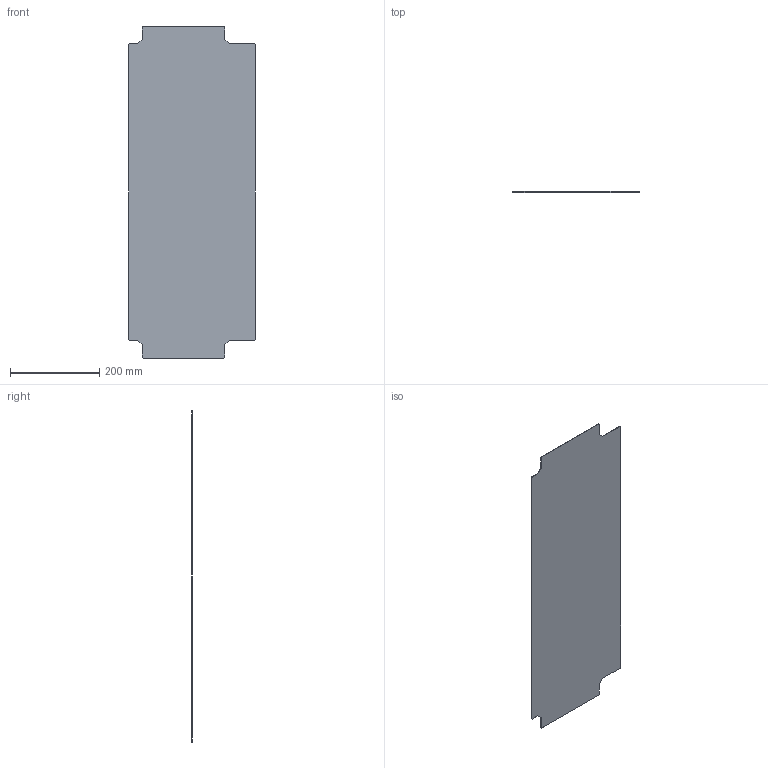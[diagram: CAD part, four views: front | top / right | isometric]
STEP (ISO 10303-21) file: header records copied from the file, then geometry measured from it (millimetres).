
FILE_DESCRIPTION(('CAx-IF Rec.Pracs.---Model Styling and Organization---1.2---2011-12-15','CAx-IF Rec.Pracs.---Geometric and Assembly Validation Properties---4.1---2014-06-16','CAx-IF Rec.Pracs.---PMI Polyline Presentation---2.0---2013-05-24'),'2;1');
FILE_NAME('R5SBC38.stp','2021-05-06T02:30:09+03:00',(''),(''),'STEP Interface 4.4 by CT CoreTechnologie','3D_Evolution4.4 by CT CoreTechnologie','');
FILE_SCHEMA(('AUTOMOTIVE_DESIGN { 1 0 10303 214 1 1 1 1 }'));
Length unit declared in the file: millimetre
Products named in the file (2): R5SBC38; RB.0504.00.00.0_-06
Assembly tree (1 placements, depth 2):
  R5SBC38
    RB.0504.00.00.0_-06
Bounding box: 283 x 1.5 x 743 mm (x, y, z)
Surface area: 408254.8 mm2 (no closed solid volume)
Topology: 0 solids, 1 shells, 26 faces, 72 edges, 48 vertices
Faces by surface type: plane 26
Entity records: 889 total; most frequent: CARTESIAN_POINT 148, ORIENTED_EDGE 144, DIRECTION 128, VECTOR 72, LINE 72, EDGE_CURVE 72, VERTEX_POINT 48, AXIS2_PLACEMENT_3D 28
